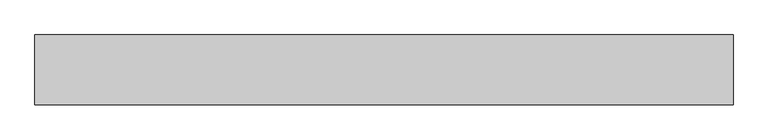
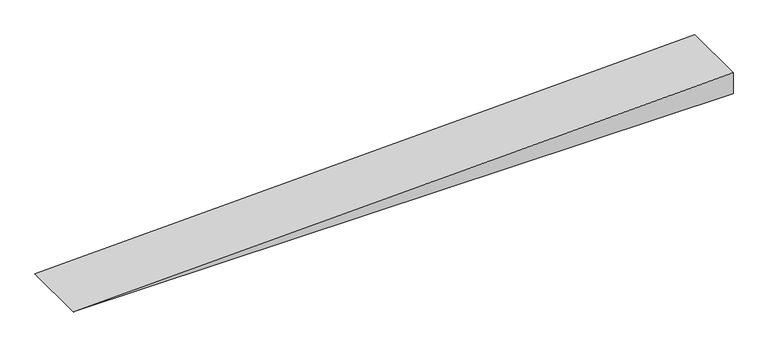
"""IFC4 building model written with IfcOpenShell, lengths in millimetres: ramp geometry, Ramp:24_RA_hellingbaan_beton_prefab_solid:79050:1 : Ramp:24_RA_hellingbaan_beton_prefab_solid:79050:1."""

from ifc_helpers import new_model, si_unit, frame, origin, place, context, project, spatial, polyline, outline, extrude, source, transform, mapped, element, save


def ramp_c5d2febd(model_context):
    return source(origin(), model_context, "Body", "SweptSolid", [
        extrude(outline(polyline([(0.0, 27650.3204725), (333.3333333, 27650.3204725), (0.0, 17650.3204725), (0.0, 27650.3204725)])), frame((0.0, -35150.6479444, 0.0), z_axis=(0.0, 1.0, 0.0), x_axis=(0.0, 0.0, 1.0)), (0.0, 0.0, 1.0), 1000.0),
    ])


if __name__ == "__main__":
    model = new_model("IFC4")
    model_context = context("Model", 3, world=origin())
    ifc_project = project(units=[si_unit("LENGTHUNIT", "METRE", prefix="MILLI")], contexts=[model_context])
    site = spatial("IfcSite", under=ifc_project)
    building = spatial("IfcBuilding", under=site)
    placement = place(None, origin())
    ramp_shape = ramp_c5d2febd(model_context)
    element("IfcRamp", 1, ObjectType="Ramp:24_RA_hellingbaan_beton_prefab_solid:79050:1 : Ramp:24_RA_hellingbaan_beton_prefab_solid:79050:1", at=placement, inside=building, context=model_context, shape_type="MappedRepresentation", body=[
        mapped(ramp_shape, transform((0.0, 0.0, 0.0), x_axis=(1.0, 0.0, 0.0), y_axis=(0.0, 1.0, 0.0), z_axis=(0.0, 0.0, 1.0))),
    ])
    save(model, "model.ifc")
